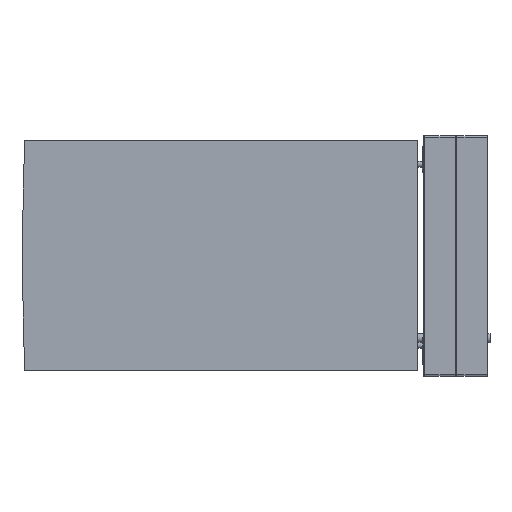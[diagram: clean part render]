
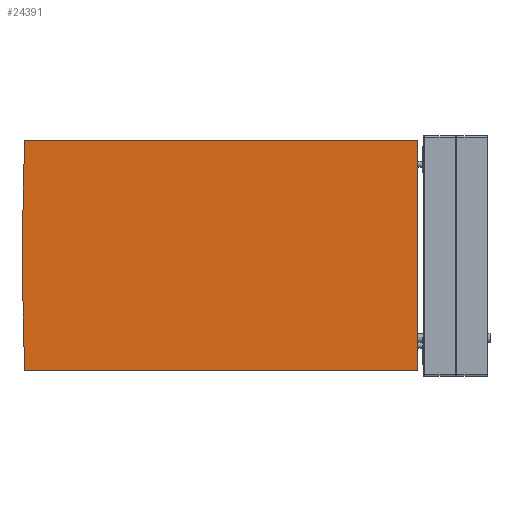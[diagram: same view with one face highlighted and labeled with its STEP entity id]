
A CAD part, left-side view. The second image highlights one B-rep face of the part: STEP entity #24391.
In plain terms, the highlighted planar face has unit normal (-1, 0, 0).
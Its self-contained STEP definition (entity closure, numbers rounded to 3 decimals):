
#15 = LINE ( 'NONE', #2064, #12124 ) ;
#706 = VERTEX_POINT ( 'NONE', #6142 ) ;
#973 = EDGE_CURVE ( 'NONE', #17649, #11587, #25607, .T. ) ;
#989 = CARTESIAN_POINT ( 'NONE',  ( -575., 2., -357.5 ) ) ;
#1738 = AXIS2_PLACEMENT_3D ( 'NONE', #24884, #9654, #16357 ) ;
#1759 = VECTOR ( 'NONE', #28292, 1000. ) ;
#2064 = CARTESIAN_POINT ( 'NONE',  ( -575., 1222.101, 357.478 ) ) ;
#3269 = DIRECTION ( 'NONE',  ( 0., 0., 1. ) ) ;
#3527 = DIRECTION ( 'NONE',  ( 1., 0., 0. ) ) ;
#3530 = CARTESIAN_POINT ( 'NONE',  ( -575., 1222.101, 354.578 ) ) ;
#3714 = CARTESIAN_POINT ( 'NONE',  ( -575., 1222.101, -357.478 ) ) ;
#4188 = EDGE_CURVE ( 'NONE', #25145, #706, #25433, .T. ) ;
#4405 = EDGE_CURVE ( 'NONE', #24337, #4733, #18236, .T. ) ;
#4660 = CARTESIAN_POINT ( 'NONE',  ( -575., 2., 357.5 ) ) ;
#4733 = VERTEX_POINT ( 'NONE', #6507 ) ;
#5718 = ORIENTED_EDGE ( 'NONE', *, *, #12142, .F. ) ;
#6142 = CARTESIAN_POINT ( 'NONE',  ( -575., 1222.101, -357.478 ) ) ;
#6426 = DIRECTION ( 'NONE',  ( 0., -1., 0. ) ) ;
#6507 = CARTESIAN_POINT ( 'NONE',  ( -575., 1222.101, 357.478 ) ) ;
#6983 = VERTEX_POINT ( 'NONE', #4660 ) ;
#6996 = AXIS2_PLACEMENT_3D ( 'NONE', #25840, #3527, #8296 ) ;
#7395 = CARTESIAN_POINT ( 'NONE',  ( -575., 1225., 354.642 ) ) ;
#7414 = ORIENTED_EDGE ( 'NONE', *, *, #13189, .F. ) ;
#7781 = CARTESIAN_POINT ( 'NONE',  ( -575., 0., -355.5 ) ) ;
#7818 = ORIENTED_EDGE ( 'NONE', *, *, #28551, .F. ) ;
#8296 = DIRECTION ( 'NONE',  ( 0., 0., 1. ) ) ;
#8779 = DIRECTION ( 'NONE',  ( 1., 0., 0. ) ) ;
#9654 = DIRECTION ( 'NONE',  ( -1., 0., 0. ) ) ;
#9861 = CARTESIAN_POINT ( 'NONE',  ( -575., 0., -355.5 ) ) ;
#10291 = CIRCLE ( 'NONE', #25592, 2. ) ;
#11587 = VERTEX_POINT ( 'NONE', #9861 ) ;
#11599 = CIRCLE ( 'NONE', #6996, 2.9 ) ;
#12005 = EDGE_CURVE ( 'NONE', #13544, #20230, #21956, .T. ) ;
#12124 = VECTOR ( 'NONE', #6426, 1000. ) ;
#12142 = EDGE_CURVE ( 'NONE', #11587, #25145, #22494, .T. ) ;
#12681 = DIRECTION ( 'NONE',  ( 0., 1., 0. ) ) ;
#12805 = AXIS2_PLACEMENT_3D ( 'NONE', #20632, #16319, #3269 ) ;
#13189 = EDGE_CURVE ( 'NONE', #706, #13544, #11599, .T. ) ;
#13544 = VERTEX_POINT ( 'NONE', #15993 ) ;
#13728 = FACE_OUTER_BOUND ( 'NONE', #17577, .T. ) ;
#14289 = DIRECTION ( 'NONE',  ( 0., 0., -1. ) ) ;
#14527 = DIRECTION ( 'NONE',  ( 1., 0., 0. ) ) ;
#14597 = CARTESIAN_POINT ( 'NONE',  ( -575., 1225., 354.642 ) ) ;
#15429 = CARTESIAN_POINT ( 'NONE',  ( -575., 0., 355.5 ) ) ;
#15993 = CARTESIAN_POINT ( 'NONE',  ( -575., 1225., -354.642 ) ) ;
#16062 = PLANE ( 'NONE',  #1738 ) ;
#16319 = DIRECTION ( 'NONE',  ( 1., 0., 0. ) ) ;
#16357 = DIRECTION ( 'NONE',  ( 0., 0., 1. ) ) ;
#17028 = ORIENTED_EDGE ( 'NONE', *, *, #4188, .F. ) ;
#17325 = AXIS2_PLACEMENT_3D ( 'NONE', #3530, #14527, #25694 ) ;
#17577 = EDGE_LOOP ( 'NONE', ( #7818, #21828, #25307, #26282, #23076, #7414, #17028, #5718, #27992 ) ) ;
#17622 = DIRECTION ( 'NONE',  ( 0., 0.022, 1. ) ) ;
#17649 = VERTEX_POINT ( 'NONE', #15429 ) ;
#18236 = CIRCLE ( 'NONE', #17325, 2.9 ) ;
#19950 = CARTESIAN_POINT ( 'NONE',  ( -575., 2., 355.5 ) ) ;
#20077 = EDGE_CURVE ( 'NONE', #4733, #6983, #15, .T. ) ;
#20230 = VERTEX_POINT ( 'NONE', #25517 ) ;
#20632 = CARTESIAN_POINT ( 'NONE',  ( -575., 2., -355.5 ) ) ;
#21094 = LINE ( 'NONE', #14597, #1759 ) ;
#21828 = ORIENTED_EDGE ( 'NONE', *, *, #20077, .F. ) ;
#21956 = LINE ( 'NONE', #28716, #22949 ) ;
#22098 = DIRECTION ( 'NONE',  ( 0., 0., 1. ) ) ;
#22494 = CIRCLE ( 'NONE', #12805, 2. ) ;
#22949 = VECTOR ( 'NONE', #17622, 1000. ) ;
#23076 = ORIENTED_EDGE ( 'NONE', *, *, #12005, .F. ) ;
#24337 = VERTEX_POINT ( 'NONE', #7395 ) ;
#24391 = ADVANCED_FACE ( 'NONE', ( #13728 ), #16062, .T. ) ;
#24496 = EDGE_CURVE ( 'NONE', #20230, #24337, #21094, .T. ) ;
#24884 = CARTESIAN_POINT ( 'NONE',  ( -575., 0., 0. ) ) ;
#25145 = VERTEX_POINT ( 'NONE', #989 ) ;
#25307 = ORIENTED_EDGE ( 'NONE', *, *, #4405, .F. ) ;
#25433 = LINE ( 'NONE', #3714, #27983 ) ;
#25517 = CARTESIAN_POINT ( 'NONE',  ( -575., 1232.738, 0. ) ) ;
#25592 = AXIS2_PLACEMENT_3D ( 'NONE', #19950, #8779, #22098 ) ;
#25607 = LINE ( 'NONE', #7781, #27529 ) ;
#25694 = DIRECTION ( 'NONE',  ( 0., 0., 1. ) ) ;
#25840 = CARTESIAN_POINT ( 'NONE',  ( -575., 1222.101, -354.578 ) ) ;
#26282 = ORIENTED_EDGE ( 'NONE', *, *, #24496, .F. ) ;
#27529 = VECTOR ( 'NONE', #14289, 1000. ) ;
#27983 = VECTOR ( 'NONE', #12681, 1000. ) ;
#27992 = ORIENTED_EDGE ( 'NONE', *, *, #973, .F. ) ;
#28292 = DIRECTION ( 'NONE',  ( 0., -0.022, 1. ) ) ;
#28551 = EDGE_CURVE ( 'NONE', #6983, #17649, #10291, .T. ) ;
#28716 = CARTESIAN_POINT ( 'NONE',  ( -575., 1232.738, 0. ) ) ;
